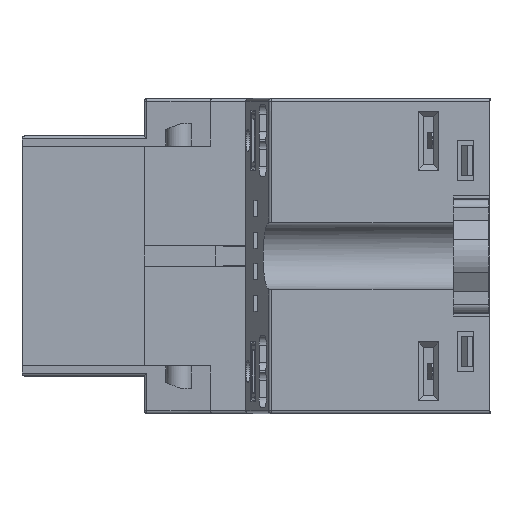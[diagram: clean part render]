
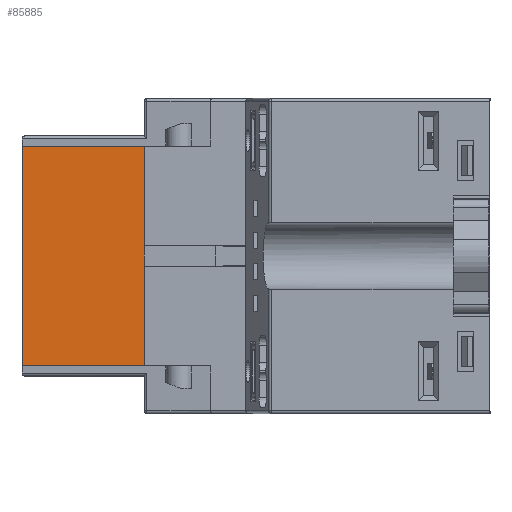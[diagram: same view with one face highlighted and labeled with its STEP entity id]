
A CAD part, left-side view. The second image highlights one B-rep face of the part: STEP entity #85885.
In plain terms, the highlighted planar face has unit normal (-1, 0, 0).
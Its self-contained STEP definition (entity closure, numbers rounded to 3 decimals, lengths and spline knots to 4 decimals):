
#7582=FACE_OUTER_BOUND('',#12157,.T.);
#12157=EDGE_LOOP('',(#73721,#73722,#73723,#73724));
#21881=LINE('',#138707,#31582);
#21900=LINE('',#138729,#31601);
#21902=LINE('',#138732,#31603);
#21903=LINE('',#138734,#31604);
#31582=VECTOR('',#113537,2.16);
#31601=VECTOR('',#113558,2.16);
#31603=VECTOR('',#113562,1.2);
#31604=VECTOR('',#113565,1.2);
#39032=VERTEX_POINT('',#138704);
#39033=VERTEX_POINT('',#138706);
#39034=VERTEX_POINT('',#138726);
#39035=VERTEX_POINT('',#138728);
#50661=EDGE_CURVE('',#39032,#39033,#21881,.T.);
#50680=EDGE_CURVE('',#39034,#39035,#21900,.T.);
#50682=EDGE_CURVE('',#39033,#39034,#21902,.T.);
#50683=EDGE_CURVE('',#39032,#39035,#21903,.T.);
#73721=ORIENTED_EDGE('',*,*,#50661,.F.);
#73722=ORIENTED_EDGE('',*,*,#50683,.T.);
#73723=ORIENTED_EDGE('',*,*,#50680,.F.);
#73724=ORIENTED_EDGE('',*,*,#50682,.F.);
#77288=PLANE('',#91922);
#85885=ADVANCED_FACE('',(#7582),#77288,.T.);
#91922=AXIS2_PLACEMENT_3D('',#138735,#113566,#113567);
#113537=DIRECTION('',(0.,0.,-1.));
#113558=DIRECTION('',(0.,0.,1.));
#113562=DIRECTION('',(0.,1.,0.));
#113565=DIRECTION('',(0.,1.,0.));
#113566=DIRECTION('center_axis',(-1.,0.,0.));
#113567=DIRECTION('ref_axis',(0.,0.,1.));
#138704=CARTESIAN_POINT('',(5.7075,3.4,1.08));
#138706=CARTESIAN_POINT('',(5.7075,3.4,-1.08));
#138707=CARTESIAN_POINT('',(5.7075,3.4,-0.54));
#138726=CARTESIAN_POINT('',(5.7075,4.6,-1.08));
#138728=CARTESIAN_POINT('',(5.7075,4.6,1.08));
#138729=CARTESIAN_POINT('',(5.7075,4.6,1.08));
#138732=CARTESIAN_POINT('',(5.7075,3.4,-1.08));
#138734=CARTESIAN_POINT('',(5.7075,3.4,1.08));
#138735=CARTESIAN_POINT('Origin',(5.7075,3.4,-1.08));
